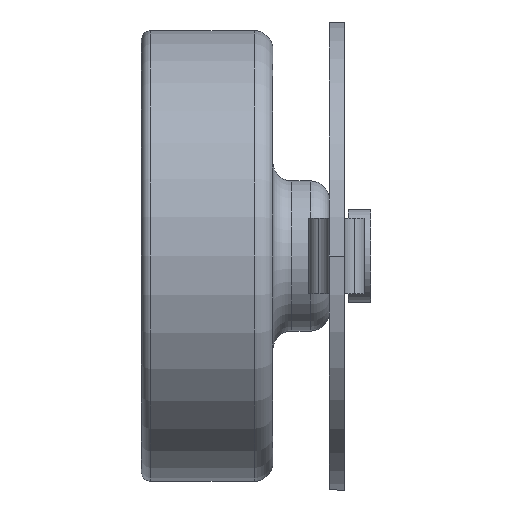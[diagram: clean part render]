
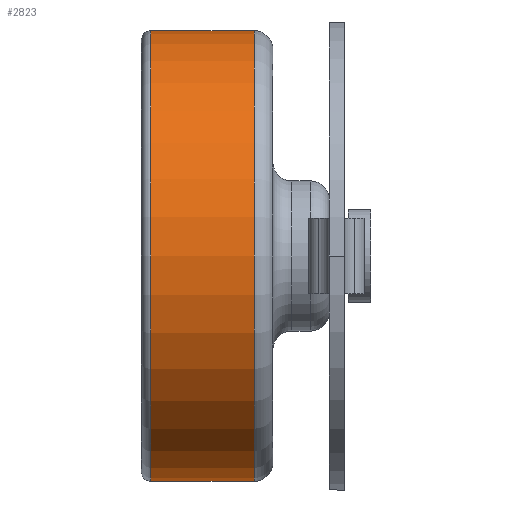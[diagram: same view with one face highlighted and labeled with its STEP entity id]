
A CAD part, left-side view. The second image highlights one B-rep face of the part: STEP entity #2823.
In plain terms, the highlighted cylindrical face has radius 12 mm (diameter 24 mm), a partial arc.
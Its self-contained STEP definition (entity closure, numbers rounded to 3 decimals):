
#136 = VERTEX_POINT ( 'NONE', #1851 ) ;
#141 = CARTESIAN_POINT ( 'NONE',  ( 0., -6., -12. ) ) ;
#218 = VECTOR ( 'NONE', #4243, 1000. ) ;
#497 = EDGE_LOOP ( 'NONE', ( #1829, #5367, #3994, #4509 ) ) ;
#701 = CARTESIAN_POINT ( 'NONE',  ( 0., -0.5, -12. ) ) ;
#859 = CIRCLE ( 'NONE', #1559, 12. ) ;
#1434 = DIRECTION ( 'NONE',  ( 0., 0., -1. ) ) ;
#1538 = AXIS2_PLACEMENT_3D ( 'NONE', #4547, #4171, #2958 ) ;
#1559 = AXIS2_PLACEMENT_3D ( 'NONE', #5103, #5157, #1434 ) ;
#1725 = DIRECTION ( 'NONE',  ( 0., -1., 0. ) ) ;
#1777 = CARTESIAN_POINT ( 'NONE',  ( 0., -0.5, 0. ) ) ;
#1829 = ORIENTED_EDGE ( 'NONE', *, *, #2809, .F. ) ;
#1851 = CARTESIAN_POINT ( 'NONE',  ( 0., -6., 12. ) ) ;
#1913 = VERTEX_POINT ( 'NONE', #4843 ) ;
#1963 = AXIS2_PLACEMENT_3D ( 'NONE', #1777, #1725, #2140 ) ;
#2055 = LINE ( 'NONE', #3697, #218 ) ;
#2119 = CARTESIAN_POINT ( 'NONE',  ( 0., 0., 12. ) ) ;
#2140 = DIRECTION ( 'NONE',  ( 0., 0., 1. ) ) ;
#2220 = VERTEX_POINT ( 'NONE', #141 ) ;
#2809 = EDGE_CURVE ( 'NONE', #1913, #136, #4954, .T. ) ;
#2823 = ADVANCED_FACE ( 'NONE', ( #5011 ), #3735, .T. ) ;
#2958 = DIRECTION ( 'NONE',  ( 0., 0., -1. ) ) ;
#3169 = CIRCLE ( 'NONE', #1963, 12. ) ;
#3697 = CARTESIAN_POINT ( 'NONE',  ( 0., 0., -12. ) ) ;
#3735 = CYLINDRICAL_SURFACE ( 'NONE', #1538, 12. ) ;
#3994 = ORIENTED_EDGE ( 'NONE', *, *, #4805, .T. ) ;
#4171 = DIRECTION ( 'NONE',  ( 0., -1., 0. ) ) ;
#4243 = DIRECTION ( 'NONE',  ( 0., -1., 0. ) ) ;
#4335 = VERTEX_POINT ( 'NONE', #701 ) ;
#4402 = VECTOR ( 'NONE', #4521, 1000. ) ;
#4509 = ORIENTED_EDGE ( 'NONE', *, *, #4593, .T. ) ;
#4521 = DIRECTION ( 'NONE',  ( 0., -1., 0. ) ) ;
#4547 = CARTESIAN_POINT ( 'NONE',  ( 0., 0., 0. ) ) ;
#4593 = EDGE_CURVE ( 'NONE', #2220, #136, #859, .T. ) ;
#4805 = EDGE_CURVE ( 'NONE', #4335, #2220, #2055, .T. ) ;
#4823 = EDGE_CURVE ( 'NONE', #1913, #4335, #3169, .T. ) ;
#4843 = CARTESIAN_POINT ( 'NONE',  ( 0., -0.5, 12. ) ) ;
#4954 = LINE ( 'NONE', #2119, #4402 ) ;
#5011 = FACE_OUTER_BOUND ( 'NONE', #497, .T. ) ;
#5103 = CARTESIAN_POINT ( 'NONE',  ( 0., -6., 0. ) ) ;
#5157 = DIRECTION ( 'NONE',  ( 0., 1., 0. ) ) ;
#5367 = ORIENTED_EDGE ( 'NONE', *, *, #4823, .T. ) ;
